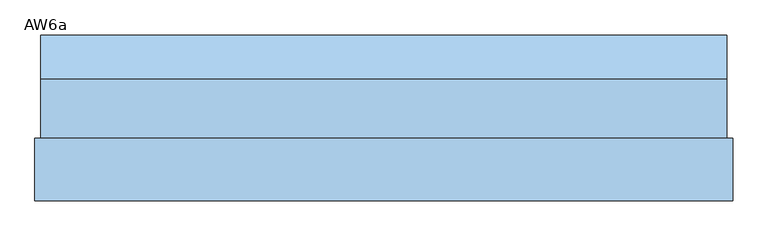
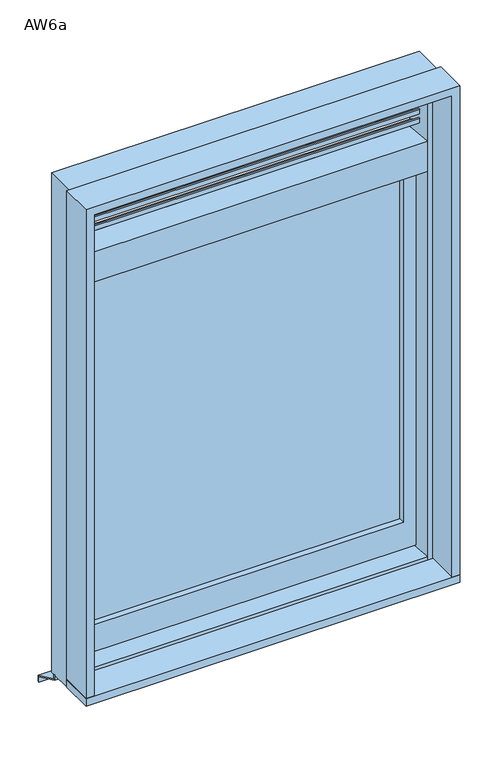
"""IFC4 building model written with IfcOpenShell, lengths in millimetres: window geometry, 営_段窓_縦辷出し/ガラリ : AW6a."""

import ifcopenshell
import ifcopenshell.guid

model = None  # the IFC model being written
_history = None  # IfcOwnerHistory: only IFC2X3 demands one
_inside = {}  # id of a spatial element -> (the spatial element, [elements in it])
_under = {}  # id of a project, library or spatial element -> (it, [spatial elements below it])
_declared = {}  # id of a project -> (the project, [libraries it declares])
_typed = {}  # id of a type object -> (the type object, [elements of that type])
_made_of = {}  # id of a material, layer set ... -> (it, [elements and type objects made of it])


def new_model(schema):
    """Start an empty IFC model of exactly this schema.

    Asked for "IFC4X3", IfcOpenShell would pick the latest addendum, in which some entities
    have other attributes; the version numbers below select the first issue.
    IFC2X3 requires an IfcOwnerHistory on every rooted entity: one is made here for all.
    """
    global model, _history
    if schema == "IFC4X3":
        model = ifcopenshell.file(schema_version=(4, 3, 0, 0))
    else:
        model = ifcopenshell.file(schema=schema)
    _inside.clear()
    _under.clear()
    _declared.clear()
    _typed.clear()
    _made_of.clear()
    _history = None
    if model.schema == "IFC2X3":
        org = make("IfcOrganization", Name="unknown")
        user = make(
            "IfcPersonAndOrganization",
            ThePerson=make("IfcPerson", FamilyName="unknown"),
            TheOrganization=org,
        )
        app = make(
            "IfcApplication",
            ApplicationDeveloper=org,
            Version="unknown",
            ApplicationFullName="unknown",
            ApplicationIdentifier="unknown",
        )
        _history = make(
            "IfcOwnerHistory",
            OwningUser=user,
            OwningApplication=app,
            ChangeAction="ADDED",
            CreationDate=0,
        )
    return model


def make(cls, **values):
    """One entity of the class cls with the attributes given. An attribute that is None is left unset."""
    return model.create_entity(
        cls, **{name: value for name, value in values.items() if value is not None}
    )


def rooted(cls, **values):
    """An entity with a GlobalId (a new one), such as an element, a storey or a relation."""
    return make(cls, GlobalId=ifcopenshell.guid.new(), OwnerHistory=_history, **values)


def si_unit(unit_type, name, prefix=None):
    """IfcSIUnit, for example si_unit("LENGTHUNIT", "METRE", prefix="MILLI")."""
    return make("IfcSIUnit", UnitType=unit_type, Prefix=prefix, Name=name)


def assignment(units):
    """IfcUnitAssignment: the units of a project."""
    return None if units is None else make("IfcUnitAssignment", Units=units)


def point(xyz):
    """IfcCartesianPoint."""
    return None if xyz is None else make("IfcCartesianPoint", Coordinates=xyz)


def direction(xyz):
    """IfcDirection."""
    return None if xyz is None else make("IfcDirection", DirectionRatios=xyz)


def frame(location, z_axis=None, x_axis=None):
    """IfcAxis2Placement3D, a coordinate frame: its origin and axes. An axis left out is left unset."""
    return make(
        "IfcAxis2Placement3D",
        Location=point(location),
        Axis=direction(z_axis),
        RefDirection=direction(x_axis),
    )


def origin():
    """The frame at (0, 0, 0) with its axes left unset."""
    return frame((0.0, 0.0, 0.0))


def place(relative_to, where):
    """IfcLocalPlacement: puts the frame where relative to a parent placement (None: the world)."""
    return make(
        "IfcLocalPlacement", PlacementRelTo=relative_to, RelativePlacement=where
    )


def context(
    kind, dimensions, precision=None, world=None, true_north=None, identifier=None
):
    """IfcGeometricRepresentationContext, for example the 3D "Model" context."""
    return make(
        "IfcGeometricRepresentationContext",
        ContextIdentifier=identifier,
        ContextType=kind,
        CoordinateSpaceDimension=dimensions,
        Precision=precision,
        WorldCoordinateSystem=world,
        TrueNorth=true_north,
    )


def project(units=None, contexts=None):
    """IfcProject with its units and contexts."""
    return rooted(
        "IfcProject",
        Name="project",
        RepresentationContexts=contexts,
        UnitsInContext=assignment(units),
    )


def spatial(cls, under=None, at=None, **own):
    """A site, building, storey or space (cls), placed at a placement, below another one or the project."""
    s = rooted(cls, ObjectPlacement=at, **own)
    if under is not None:
        _under.setdefault(under.id(), (under, []))[1].append(s)
    return s


def polyline(points):
    """IfcPolyline through the points."""
    return make("IfcPolyline", Points=[point(p) for p in points])


def outline(outer, holes=None, kind="AREA"):
    """IfcArbitraryClosedProfileDef: a profile drawn as a closed curve; with holes, ...WithVoids."""
    if holes is None:
        return make("IfcArbitraryClosedProfileDef", ProfileType=kind, OuterCurve=outer)
    return make(
        "IfcArbitraryProfileDefWithVoids",
        ProfileType=kind,
        OuterCurve=outer,
        InnerCurves=holes,
    )


def extrude(swept, where, along, depth):
    """IfcExtrudedAreaSolid: the profile swept, set in the frame where, extruded along a direction by depth."""
    return make(
        "IfcExtrudedAreaSolid",
        SweptArea=swept,
        Position=where,
        ExtrudedDirection=direction(along),
        Depth=depth,
    )


def shape(context_of_items, identifier, shape_type, items):
    """IfcShapeRepresentation: the items that make up one representation, for example the "Body"."""
    return make(
        "IfcShapeRepresentation",
        ContextOfItems=context_of_items,
        RepresentationIdentifier=identifier,
        RepresentationType=shape_type,
        Items=items,
    )


def source(mapping_origin, context_of_items, identifier, shape_type, items):
    """IfcRepresentationMap: a shape defined once, which mapped items show again and again."""
    return make(
        "IfcRepresentationMap",
        MappingOrigin=mapping_origin,
        MappedRepresentation=shape(context_of_items, identifier, shape_type, items),
    )


def transform(
    local_origin,
    x_axis=None,
    y_axis=None,
    z_axis=None,
    scale=None,
    scale2=None,
    scale3=None,
    uniform=True,
):
    """IfcCartesianTransformationOperator3D, or its non-uniform kind. x_axis, y_axis, z_axis: its Axis1, 2, 3."""
    if uniform:
        return make(
            "IfcCartesianTransformationOperator3D",
            Axis1=direction(x_axis),
            Axis2=direction(y_axis),
            LocalOrigin=point(local_origin),
            Scale=scale,
            Axis3=direction(z_axis),
        )
    return make(
        "IfcCartesianTransformationOperator3DnonUniform",
        Axis1=direction(x_axis),
        Axis2=direction(y_axis),
        LocalOrigin=point(local_origin),
        Scale=scale,
        Axis3=direction(z_axis),
        Scale2=scale2,
        Scale3=scale3,
    )


def mapped(mapping_source, mapping_target):
    """IfcMappedItem: shows the shape of a source again, moved by a transform."""
    return make(
        "IfcMappedItem", MappingSource=mapping_source, MappingTarget=mapping_target
    )


def made_of(thing, what):
    """Note that an element or type object is made of a material, layer set ...; save() writes the relation."""
    if what is not None:
        _made_of.setdefault(what.id(), (what, []))[1].append(thing)
    return thing


def element(
    cls,
    number,
    at=None,
    inside=None,
    cuts=None,
    type_object=None,
    material=None,
    context=None,
    identifier="Body",
    shape_type=None,
    held_by="IfcProductDefinitionShape",
    body=None,
    shapes=None,
    **own,
):
    """One element of the class cls, such as IfcWall. Its Tag is "e" and its number.

    at: its placement. inside: the storey or other place that contains it. cuts: it is an
    opening in that element (IfcRelVoidsElement). A single representation is given by context,
    identifier, shape_type and body (its items); several are given by shapes. held_by: the class
    of the entity that holds the representations. save() writes the other relations.
    """
    e = rooted(cls, Tag="e%d" % number, ObjectPlacement=at, **own)
    if body is not None:
        shapes = [shape(context, identifier, shape_type, body)]
    if shapes is not None:
        e.Representation = make(held_by, Representations=shapes)
    if inside is not None:
        _inside.setdefault(inside.id(), (inside, []))[1].append(e)
    if cuts is not None:
        rooted(
            "IfcRelVoidsElement", RelatingBuildingElement=cuts, RelatedOpeningElement=e
        )
    if type_object is not None:
        _typed.setdefault(type_object.id(), (type_object, []))[1].append(e)
    return made_of(e, material)


def aggregate(whole, parts):
    """IfcRelAggregates: a whole, such as a stair, and the parts it consists of."""
    return rooted("IfcRelAggregates", RelatingObject=whole, RelatedObjects=parts)


def save(model, path):
    """Write the relations noted so far, then the file.

    IfcRelAggregates (storeys below a building ...), IfcRelContainedInSpatialStructure (elements
    in a storey), IfcRelDefinesByType, IfcRelAssociatesMaterial and IfcRelDeclares: one each for
    every whole, place, type object, material and project.
    """
    for whole, parts in _under.values():
        aggregate(whole, parts)
    for where, things in _inside.values():
        rooted(
            "IfcRelContainedInSpatialStructure",
            RelatedElements=things,
            RelatingStructure=where,
        )
    for kind, things in _typed.values():
        rooted("IfcRelDefinesByType", RelatedObjects=things, RelatingType=kind)
    for what, things in _made_of.values():
        rooted("IfcRelAssociatesMaterial", RelatedObjects=things, RelatingMaterial=what)
    for by, libraries in _declared.values():
        rooted("IfcRelDeclares", RelatingContext=by, RelatedDefinitions=libraries)
    model.write(path)


def aw6a_3e550bbd(model_context):
    return source(origin(), model_context, "Body", "SweptSolid", [
        extrude(outline(polyline([(20.0, 2623.2493654), (20.0, 2605.0), (15.0, 2605.0), (15.0, 2620.0), (-30.0, 2640.0), (-30.0, 2655.0), (-25.0, 2655.0), (-25.0, 2643.2493654), (20.0, 2623.2493654)])), frame((-550.0, 0.0, 0.0), z_axis=(1.0, 0.0, 0.0), x_axis=(0.0, 1.0, 0.0)), (0.0, 0.0, 1.0), 1100.0),
        extrude(outline(polyline([(20.0, 2593.2493654), (20.0, 2575.0), (15.0, 2575.0), (15.0, 2590.0), (-30.0, 2610.0), (-30.0, 2625.0), (-25.0, 2625.0), (-25.0, 2613.2493654), (20.0, 2593.2493654)])), frame((-550.0, 0.0, 0.0), z_axis=(1.0, 0.0, 0.0), x_axis=(0.0, 1.0, 0.0)), (0.0, 0.0, 1.0), 1100.0),
        extrude(outline(polyline([(20.0, 2563.2493654), (20.0, 2545.0), (15.0, 2545.0), (15.0, 2560.0), (-30.0, 2580.0), (-30.0, 2595.0), (-25.0, 2595.0), (-25.0, 2583.2493654), (20.0, 2563.2493654)])), frame((-550.0, 0.0, 0.0), z_axis=(1.0, 0.0, 0.0), x_axis=(0.0, 1.0, 0.0)), (0.0, 0.0, 1.0), 1100.0),
        extrude(outline(polyline([(20.0, 2533.2493654), (20.0, 2515.0), (15.0, 2515.0), (15.0, 2530.0), (-30.0, 2550.0), (-30.0, 2565.0), (-25.0, 2565.0), (-25.0, 2553.2493654), (20.0, 2533.2493654)])), frame((-550.0, 0.0, 0.0), z_axis=(1.0, 0.0, 0.0), x_axis=(0.0, 1.0, 0.0)), (0.0, 0.0, 1.0), 1100.0),
        extrude(outline(polyline([(20.0, 2653.2493654), (20.0, 2635.0), (15.0, 2635.0), (15.0, 2650.0), (-30.0, 2670.0), (-30.0, 2685.0), (-25.0, 2685.0), (-25.0, 2673.2493654), (20.0, 2653.2493654)])), frame((-550.0, 0.0, 0.0), z_axis=(1.0, 0.0, 0.0), x_axis=(0.0, 1.0, 0.0)), (0.0, 0.0, 1.0), 1100.0),
        extrude(outline(polyline([(20.0, 2503.2493654), (20.0, 2485.0), (15.0, 2485.0), (15.0, 2500.0), (-30.0, 2520.0), (-30.0, 2535.0), (-25.0, 2535.0), (-25.0, 2523.2493654), (20.0, 2503.2493654)])), frame((-550.0, 0.0, 0.0), z_axis=(1.0, 0.0, 0.0), x_axis=(0.0, 1.0, 0.0)), (0.0, 0.0, 1.0), 1100.0),
        extrude(outline(polyline([(510.0, 10.0), (-510.0, 10.0), (-510.0, 15.0), (510.0, 15.0), (510.0, 10.0)])), frame((0.0, 0.0, 1190.0), z_axis=(0.0, 0.0, 1.0), x_axis=(1.0, 0.0, 0.0)), (0.0, 0.0, 1.0), 1155.0),
        extrude(outline(polyline([(2385.0, 550.0), (2385.0, -550.0), (1100.0, -550.0), (1100.0, 550.0), (2385.0, 550.0)]), holes=[polyline([(2345.0, 510.0), (1190.0, 510.0), (1190.0, -510.0), (2345.0, -510.0), (2345.0, 510.0)])]), frame((0.0, -10.0, 0.0), z_axis=(0.0, 1.0, 0.0), x_axis=(0.0, 0.0, 1.0)), (0.0, 0.0, 1.0), 30.0),
        extrude(outline(polyline([(590.0, -180.0), (-590.0, -180.0), (-590.0, -75.0), (590.0, -75.0), (590.0, -180.0)])), frame((0.0, 0.0, 1065.0), z_axis=(0.0, 0.0, 1.0), x_axis=(1.0, 0.0, 0.0)), (0.0, 0.0, 1.0), 25.0),
        extrude(outline(polyline([(15.0, 1035.0), (100.0, 995.0), (100.0, 975.0), (95.0014518, 975.0), (95.0014518, 991.8262891), (10.0, 1031.8269723), (10.0, 1050.0), (15.0, 1050.0), (15.0, 1035.0)])), frame((-580.0, 0.0, 0.0), z_axis=(1.0, 0.0, 0.0), x_axis=(0.0, 1.0, 0.0)), (0.0, 0.0, 1.0), 1160.0),
        extrude(outline(polyline([(1065.0, -590.0), (1065.0, -565.0), (2695.0, -565.0), (2695.0, 565.0), (1065.0, 565.0), (1065.0, 590.0), (2720.0, 590.0), (2720.0, -590.0), (1065.0, -590.0)])), frame((0.0, -180.0, 0.0), z_axis=(0.0, 1.0, 0.0), x_axis=(0.0, 0.0, 1.0)), (0.0, 0.0, 1.0), 105.0),
        extrude(outline(polyline([(1050.0, -580.0), (1050.0, -550.0), (2685.0, -550.0), (2685.0, 550.0), (1050.0, 550.0), (1050.0, 580.0), (2715.0, 580.0), (2715.0, -580.0), (1050.0, -580.0)])), frame((0.0, -75.0, 0.0), z_axis=(0.0, 1.0, 0.0), x_axis=(0.0, 0.0, 1.0)), (0.0, 0.0, 1.0), 100.0),
        extrude(outline(polyline([(-75.0, 1050.0), (-75.0, 1100.0), (25.0, 1090.6666667), (25.0, 1050.0), (-75.0, 1050.0)])), frame((-550.0, 0.0, 0.0), z_axis=(1.0, 0.0, 0.0), x_axis=(0.0, 1.0, 0.0)), (0.0, 0.0, 1.0), 1100.0),
        extrude(outline(polyline([(25.0, 2385.0), (-75.0, 2385.0), (-75.0, 2485.0), (25.0, 2475.0), (25.0, 2385.0)])), frame((-550.0, 0.0, 0.0), z_axis=(1.0, 0.0, 0.0), x_axis=(0.0, 1.0, 0.0)), (0.0, 0.0, 1.0), 1100.0),
    ])


if __name__ == "__main__":
    model = new_model("IFC4")
    model_context = context("Model", 3, world=origin())
    ifc_project = project(units=[si_unit("LENGTHUNIT", "METRE", prefix="MILLI")], contexts=[model_context])
    site = spatial("IfcSite", under=ifc_project)
    building = spatial("IfcBuilding", under=site)
    placement = place(None, origin())
    aw6a_shape = aw6a_3e550bbd(model_context)
    element("IfcWindow", 1, ObjectType="営_段窓_縦辷出し/ガラリ : AW6a", at=placement, inside=building, context=model_context, shape_type="MappedRepresentation", body=[
        mapped(aw6a_shape, transform((0.0, 0.0, 0.0), x_axis=(1.0, 0.0, 0.0), y_axis=(0.0, 1.0, 0.0), z_axis=(0.0, 0.0, 1.0))),
    ])
    save(model, "model.ifc")
